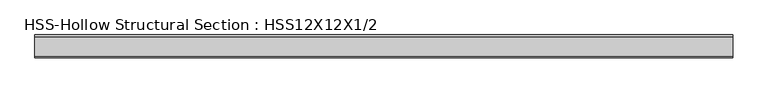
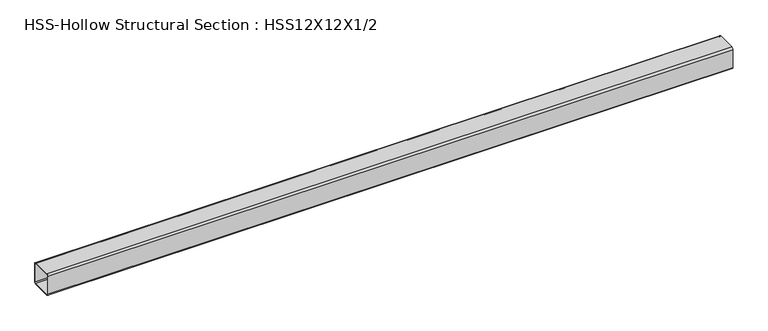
"""IFC4 building model written with IfcOpenShell, lengths in millimetres: beam geometry, HSS-Hollow Structural Section : HSS12X12X1/2."""

from ifc_helpers import new_model, si_unit, point, frame, frame_2d, origin, place, context, project, spatial, polyline, circle_curve, trimmed, segment, composite_curve, outline, extrude, source, transform, mapped, element, save


def hss_hollow_structural_section_hss12x12x1_2_15489e63(model_context):
    return source(origin(), model_context, "Body", "SweptSolid", [
        extrude(outline(composite_curve([segment(polyline([(152.4, 128.778), (152.4, -128.778)]), True, "CONTINUOUS"), segment(trimmed(circle_curve(frame_2d((128.778, -128.778)), 23.622), [point((152.4, -128.778))], [point((128.778, -152.4))], False, "CARTESIAN"), True, "CONTINUOUS"), segment(polyline([(128.778, -152.4), (-128.778, -152.4)]), True, "CONTINUOUS"), segment(trimmed(circle_curve(frame_2d((-128.778, -128.778)), 23.622), [point((-128.778, -152.4))], [point((-152.4, -128.778))], False, "CARTESIAN"), True, "CONTINUOUS"), segment(polyline([(-152.4, -128.778), (-152.4, 128.778)]), True, "CONTINUOUS"), segment(trimmed(circle_curve(frame_2d((-128.778, 128.778)), 23.622), [point((-152.4, 128.778))], [point((-128.778, 152.4))], False, "CARTESIAN"), True, "CONTINUOUS"), segment(polyline([(-128.778, 152.4), (128.778, 152.4)]), True, "CONTINUOUS"), segment(trimmed(circle_curve(frame_2d((128.778, 128.778)), 23.622), [point((128.778, 152.4))], [point((152.4, 128.778))], False, "CARTESIAN"), True, "CONTINUOUS")], self_intersect=False), holes=[composite_curve([segment(trimmed(circle_curve(frame_2d((-128.778, 128.778)), 11.811), [point((-128.778, 140.589))], [point((-140.589, 128.778))], True, "CARTESIAN"), True, "CONTINUOUS"), segment(polyline([(-140.589, 128.778), (-140.589, -128.778)]), True, "CONTINUOUS"), segment(trimmed(circle_curve(frame_2d((-128.778, -128.778)), 11.811), [point((-140.589, -128.778))], [point((-128.778, -140.589))], True, "CARTESIAN"), True, "CONTINUOUS"), segment(polyline([(-128.778, -140.589), (128.778, -140.589)]), True, "CONTINUOUS"), segment(trimmed(circle_curve(frame_2d((128.778, -128.778)), 11.811), [point((128.778, -140.589))], [point((140.589, -128.778))], True, "CARTESIAN"), True, "CONTINUOUS"), segment(polyline([(140.589, -128.778), (140.589, 128.778)]), True, "CONTINUOUS"), segment(trimmed(circle_curve(frame_2d((128.778, 128.778)), 11.811), [point((140.589, 128.778))], [point((128.778, 140.589))], True, "CARTESIAN"), True, "CONTINUOUS"), segment(polyline([(128.778, 140.589), (-128.778, 140.589)]), True, "CONTINUOUS")], self_intersect=False)]), frame((-4705.6506621, 0.0, 0.0), z_axis=(1.0, 0.0, 0.0), x_axis=(0.0, 1.0, 0.0)), (0.0, 0.0, 1.0), 9257.1223245),
    ])


if __name__ == "__main__":
    model = new_model("IFC4")
    model_context = context("Model", 3, world=origin())
    ifc_project = project(units=[si_unit("LENGTHUNIT", "METRE", prefix="MILLI")], contexts=[model_context])
    site = spatial("IfcSite", under=ifc_project)
    building = spatial("IfcBuilding", under=site)
    placement = place(None, origin())
    hss_hollow_structural_section_hss12x12x1_2_shape = hss_hollow_structural_section_hss12x12x1_2_15489e63(model_context)
    element("IfcBeam", 1, ObjectType="HSS-Hollow Structural Section : HSS12X12X1/2", at=placement, inside=building, context=model_context, shape_type="MappedRepresentation", body=[
        mapped(hss_hollow_structural_section_hss12x12x1_2_shape, transform((0.0, 0.0, 0.0), x_axis=(1.0, 0.0, 0.0), y_axis=(0.0, 1.0, 0.0), z_axis=(0.0, 0.0, 1.0))),
    ])
    save(model, "model.ifc")
